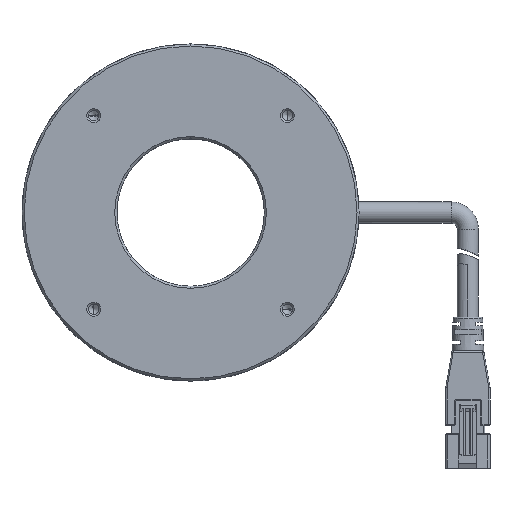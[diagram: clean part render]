
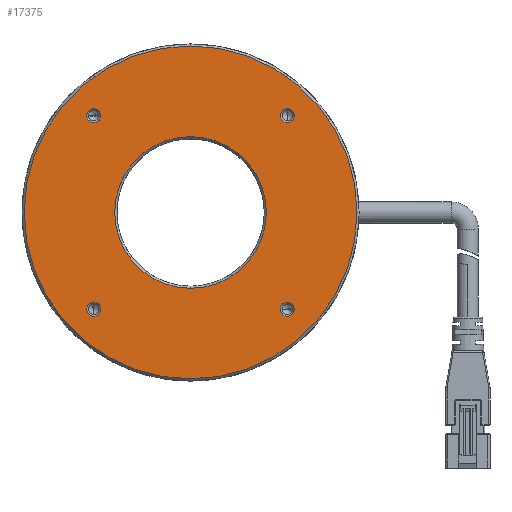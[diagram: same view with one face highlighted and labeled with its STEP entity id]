
A CAD part, top view. The second image highlights one B-rep face of the part: STEP entity #17375.
In plain terms, the highlighted planar face has unit normal (0, 0, 1).
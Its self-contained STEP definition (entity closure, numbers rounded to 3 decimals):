
#15851=CARTESIAN_POINT('',(-22.981,22.981,1.5));
#15852=DIRECTION('',(0.,0.,-1.));
#15853=DIRECTION('',(1.,0.,0.));
#15854=AXIS2_PLACEMENT_3D('',#15851,#15852,#15853);
#15856=CARTESIAN_POINT('',(-22.981,22.981,1.5));
#15857=DIRECTION('',(0.,0.,-1.));
#15858=DIRECTION('',(0.,1.,0.));
#15859=AXIS2_PLACEMENT_3D('',#15856,#15857,#15858);
#15861=CARTESIAN_POINT('',(-22.981,22.981,1.5));
#15862=DIRECTION('',(0.,0.,-1.));
#15863=DIRECTION('',(-1.,0.,0.));
#15864=AXIS2_PLACEMENT_3D('',#15861,#15862,#15863);
#15866=CARTESIAN_POINT('',(-22.981,22.981,1.5));
#15867=DIRECTION('',(0.,0.,-1.));
#15868=DIRECTION('',(0.,-1.,0.));
#15869=AXIS2_PLACEMENT_3D('',#15866,#15867,#15868);
#15871=CARTESIAN_POINT('',(22.981,22.981,1.5));
#15872=DIRECTION('',(0.,0.,-1.));
#15873=DIRECTION('',(0.,1.,0.));
#15874=AXIS2_PLACEMENT_3D('',#15871,#15872,#15873);
#15876=CARTESIAN_POINT('',(22.981,22.981,1.5));
#15877=DIRECTION('',(0.,0.,-1.));
#15878=DIRECTION('',(0.,-1.,0.));
#15879=AXIS2_PLACEMENT_3D('',#15876,#15877,#15878);
#15881=CARTESIAN_POINT('',(-22.981,-22.981,1.5));
#15882=DIRECTION('',(0.,0.,-1.));
#15883=DIRECTION('',(0.,-1.,0.));
#15884=AXIS2_PLACEMENT_3D('',#15881,#15882,#15883);
#15886=CARTESIAN_POINT('',(-22.981,-22.981,1.5));
#15887=DIRECTION('',(0.,0.,-1.));
#15888=DIRECTION('',(0.,1.,0.));
#15889=AXIS2_PLACEMENT_3D('',#15886,#15887,#15888);
#15891=CARTESIAN_POINT('',(22.981,-22.981,1.5));
#15892=DIRECTION('',(0.,0.,-1.));
#15893=DIRECTION('',(1.,0.,0.));
#15894=AXIS2_PLACEMENT_3D('',#15891,#15892,#15893);
#15896=CARTESIAN_POINT('',(22.981,-22.981,1.5));
#15897=DIRECTION('',(0.,0.,-1.));
#15898=DIRECTION('',(0.,1.,0.));
#15899=AXIS2_PLACEMENT_3D('',#15896,#15897,#15898);
#15901=CARTESIAN_POINT('',(22.981,-22.981,1.5));
#15902=DIRECTION('',(0.,0.,-1.));
#15903=DIRECTION('',(-1.,0.,0.));
#15904=AXIS2_PLACEMENT_3D('',#15901,#15902,#15903);
#15906=CARTESIAN_POINT('',(22.981,-22.981,1.5));
#15907=DIRECTION('',(0.,0.,-1.));
#15908=DIRECTION('',(0.,-1.,0.));
#15909=AXIS2_PLACEMENT_3D('',#15906,#15907,#15908);
#15911=CARTESIAN_POINT('',(0.,0.,1.5));
#15912=DIRECTION('',(0.,0.,-1.));
#15913=DIRECTION('',(0.,1.,0.));
#15914=AXIS2_PLACEMENT_3D('',#15911,#15912,#15913);
#15916=CARTESIAN_POINT('',(0.,0.,1.5));
#15917=DIRECTION('',(0.,0.,-1.));
#15918=DIRECTION('',(0.,-1.,0.));
#15919=AXIS2_PLACEMENT_3D('',#15916,#15917,#15918);
#15921=CARTESIAN_POINT('',(0.,0.,1.5));
#15922=DIRECTION('',(0.,0.,1.));
#15923=DIRECTION('',(0.,1.,0.));
#15924=AXIS2_PLACEMENT_3D('',#15921,#15922,#15923);
#15926=CARTESIAN_POINT('',(0.,0.,1.5));
#15927=DIRECTION('',(0.,0.,1.));
#15928=DIRECTION('',(0.,-1.,0.));
#15929=AXIS2_PLACEMENT_3D('',#15926,#15927,#15928);
#17147=CARTESIAN_POINT('',(0.,-39.5,1.5));
#17148=CARTESIAN_POINT('',(0.,39.5,1.5));
#17149=VERTEX_POINT('',#17147);
#17150=VERTEX_POINT('',#17148);
#17151=CARTESIAN_POINT('',(0.,-18.,1.5));
#17152=CARTESIAN_POINT('',(0.,18.,1.5));
#17153=VERTEX_POINT('',#17151);
#17154=VERTEX_POINT('',#17152);
#17155=CARTESIAN_POINT('',(22.981,-21.331,1.5));
#17156=CARTESIAN_POINT('',(24.631,-22.981,1.5));
#17157=VERTEX_POINT('',#17155);
#17158=VERTEX_POINT('',#17156);
#17159=CARTESIAN_POINT('',(21.331,-22.981,1.5));
#17160=VERTEX_POINT('',#17159);
#17161=CARTESIAN_POINT('',(22.981,-24.631,1.5));
#17162=VERTEX_POINT('',#17161);
#17163=CARTESIAN_POINT('',(-22.981,-21.331,1.5));
#17164=CARTESIAN_POINT('',(-22.981,-24.631,1.5));
#17165=VERTEX_POINT('',#17163);
#17166=VERTEX_POINT('',#17164);
#17167=CARTESIAN_POINT('',(22.981,21.331,1.5));
#17168=CARTESIAN_POINT('',(22.981,24.631,1.5));
#17169=VERTEX_POINT('',#17167);
#17170=VERTEX_POINT('',#17168);
#17171=CARTESIAN_POINT('',(-22.981,24.631,1.5));
#17172=CARTESIAN_POINT('',(-21.331,22.981,1.5));
#17173=VERTEX_POINT('',#17171);
#17174=VERTEX_POINT('',#17172);
#17175=CARTESIAN_POINT('',(-24.631,22.981,1.5));
#17176=VERTEX_POINT('',#17175);
#17177=CARTESIAN_POINT('',(-22.981,21.331,1.5));
#17178=VERTEX_POINT('',#17177);
#17326=CARTESIAN_POINT('',(0.,0.,1.5));
#17327=DIRECTION('',(0.,0.,-1.));
#17328=DIRECTION('',(0.,1.,0.));
#17329=AXIS2_PLACEMENT_3D('',#17326,#17327,#17328);
#17330=PLANE('',#17329);
#17332=ORIENTED_EDGE('',*,*,#17331,.F.);
#17334=ORIENTED_EDGE('',*,*,#17333,.F.);
#17335=EDGE_LOOP('',(#17332,#17334));
#17336=FACE_OUTER_BOUND('',#17335,.F.);
#17338=ORIENTED_EDGE('',*,*,#17337,.F.);
#17340=ORIENTED_EDGE('',*,*,#17339,.F.);
#17341=EDGE_LOOP('',(#17338,#17340));
#17342=FACE_BOUND('',#17341,.F.);
#17344=ORIENTED_EDGE('',*,*,#17343,.F.);
#17346=ORIENTED_EDGE('',*,*,#17345,.F.);
#17347=EDGE_LOOP('',(#17344,#17346));
#17348=FACE_BOUND('',#17347,.F.);
#17350=ORIENTED_EDGE('',*,*,#17349,.F.);
#17352=ORIENTED_EDGE('',*,*,#17351,.F.);
#17354=ORIENTED_EDGE('',*,*,#17353,.F.);
#17356=ORIENTED_EDGE('',*,*,#17355,.F.);
#17357=EDGE_LOOP('',(#17350,#17352,#17354,#17356));
#17358=FACE_BOUND('',#17357,.F.);
#17360=ORIENTED_EDGE('',*,*,#17359,.F.);
#17362=ORIENTED_EDGE('',*,*,#17361,.F.);
#17363=EDGE_LOOP('',(#17360,#17362));
#17364=FACE_BOUND('',#17363,.F.);
#17366=ORIENTED_EDGE('',*,*,#17365,.F.);
#17368=ORIENTED_EDGE('',*,*,#17367,.F.);
#17370=ORIENTED_EDGE('',*,*,#17369,.F.);
#17372=ORIENTED_EDGE('',*,*,#17371,.F.);
#17373=EDGE_LOOP('',(#17366,#17368,#17370,#17372));
#17374=FACE_BOUND('',#17373,.F.);
#17375=ADVANCED_FACE('',(#17336,#17342,#17348,#17358,#17364,#17374),#17330,.F.);
#15855=CIRCLE('',#15854,1.65);
#15860=CIRCLE('',#15859,1.65);
#15865=CIRCLE('',#15864,1.65);
#15870=CIRCLE('',#15869,1.65);
#15875=CIRCLE('',#15874,1.65);
#15880=CIRCLE('',#15879,1.65);
#15885=CIRCLE('',#15884,1.65);
#15890=CIRCLE('',#15889,1.65);
#15895=CIRCLE('',#15894,1.65);
#15900=CIRCLE('',#15899,1.65);
#15905=CIRCLE('',#15904,1.65);
#15910=CIRCLE('',#15909,1.65);
#15915=CIRCLE('',#15914,18.);
#15920=CIRCLE('',#15919,18.);
#15925=CIRCLE('',#15924,39.5);
#15930=CIRCLE('',#15929,39.5);
#17331=EDGE_CURVE('',#17150,#17149,#15925,.T.);
#17333=EDGE_CURVE('',#17149,#17150,#15930,.T.);
#17337=EDGE_CURVE('',#17170,#17169,#15875,.T.);
#17339=EDGE_CURVE('',#17169,#17170,#15880,.T.);
#17343=EDGE_CURVE('',#17166,#17165,#15885,.T.);
#17345=EDGE_CURVE('',#17165,#17166,#15890,.T.);
#17349=EDGE_CURVE('',#17158,#17162,#15895,.T.);
#17351=EDGE_CURVE('',#17157,#17158,#15900,.T.);
#17353=EDGE_CURVE('',#17160,#17157,#15905,.T.);
#17355=EDGE_CURVE('',#17162,#17160,#15910,.T.);
#17359=EDGE_CURVE('',#17154,#17153,#15915,.T.);
#17361=EDGE_CURVE('',#17153,#17154,#15920,.T.);
#17365=EDGE_CURVE('',#17174,#17178,#15855,.T.);
#17367=EDGE_CURVE('',#17173,#17174,#15860,.T.);
#17369=EDGE_CURVE('',#17176,#17173,#15865,.T.);
#17371=EDGE_CURVE('',#17178,#17176,#15870,.T.);
